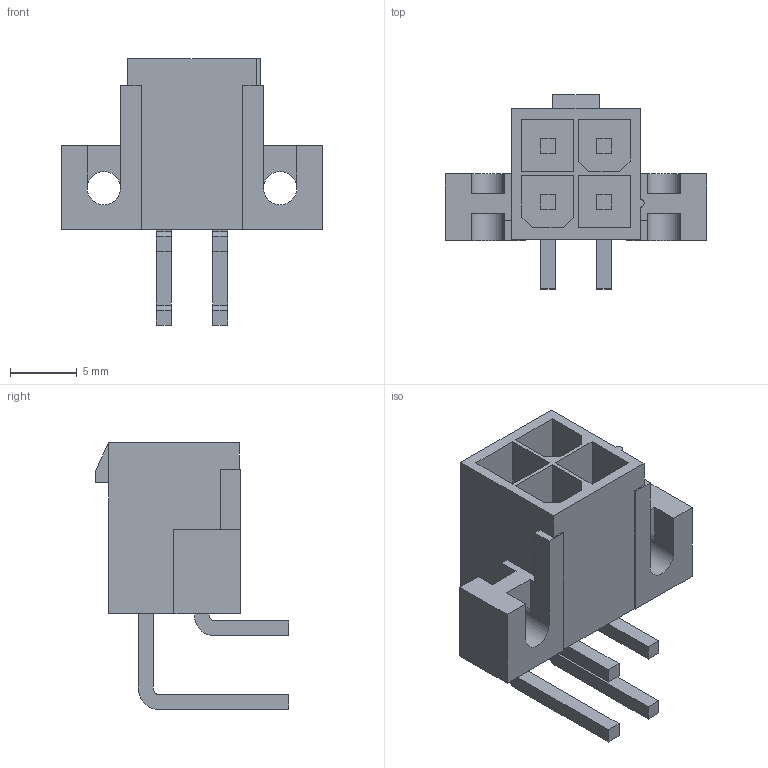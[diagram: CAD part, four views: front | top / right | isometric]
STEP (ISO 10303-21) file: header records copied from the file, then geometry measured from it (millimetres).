
FILE_DESCRIPTION((''),'2;1');
FILE_NAME('C-1586043-4','2010-04-16T',('workeradm'),('Tyco Electronics Ltd.'),'PRO/ENGINEER BY PARAMETRIC TECHNOLOGY CORPORATION, 2009300','PRO/ENGINEER BY PARAMETRIC TECHNOLOGY CORPORATION, 2009300','');
FILE_SCHEMA(('AUTOMOTIVE_DESIGN { 1 0 10303 214 1 1 1 1 }'));
Length unit declared in the file: millimetre
Products named in the file (1): C-1586043-4
Bounding box: 19.6 x 14.5 x 19.96 mm (x, y, z)
Volume: 983.3 mm3; surface area: 1888.1 mm2
Topology: 1 solids, 1 shells, 123 faces, 329 edges, 216 vertices
Faces by surface type: plane 110, cylinder 13
Entity records: 4042 total; most frequent: CARTESIAN_POINT 670, ORIENTED_EDGE 658, DIRECTION 601, EDGE_CURVE 329, VECTOR 303, LINE 303, VERTEX_POINT 216, AXIS2_PLACEMENT_3D 149
